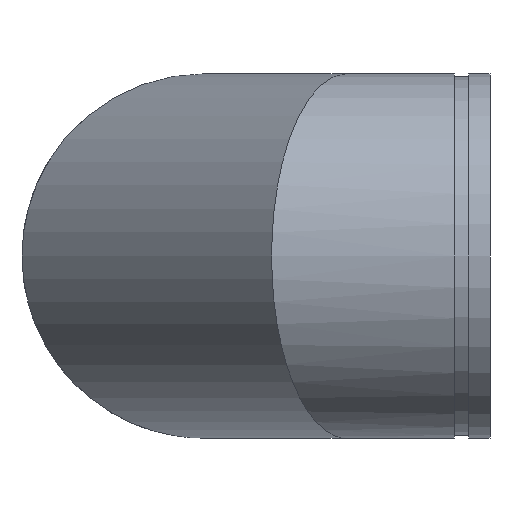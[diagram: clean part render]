
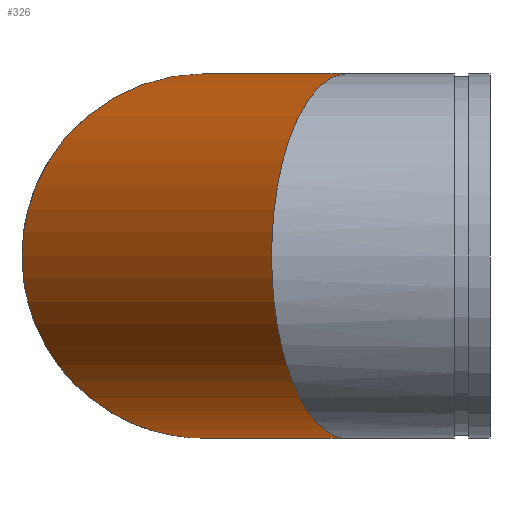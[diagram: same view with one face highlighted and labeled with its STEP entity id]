
A CAD part, left-side view. The second image highlights one B-rep face of the part: STEP entity #326.
In plain terms, the highlighted cylindrical face has radius 161.925 mm (diameter 323.85 mm), a full revolution.
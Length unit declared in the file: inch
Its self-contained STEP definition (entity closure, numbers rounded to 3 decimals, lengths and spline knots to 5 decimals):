
#51=ELLIPSE('',#383,6.90025,6.375);
#52=ELLIPSE('',#384,6.90025,6.375);
#53=ELLIPSE('',#385,6.90025,6.375);
#54=ELLIPSE('',#388,6.90025,6.375);
#55=ELLIPSE('',#389,6.90025,6.375);
#56=ELLIPSE('',#390,6.90025,6.375);
#82=FACE_OUTER_BOUND('',#103,.T.);
#103=EDGE_LOOP('',(#269,#270,#271,#272,#273,#274,#275,#276));
#115=LINE('',#606,#125);
#125=VECTOR('',#494,6.375);
#165=VERTEX_POINT('',#596);
#166=VERTEX_POINT('',#598);
#167=VERTEX_POINT('',#600);
#168=VERTEX_POINT('',#605);
#169=VERTEX_POINT('',#607);
#170=VERTEX_POINT('',#609);
#201=EDGE_CURVE('',#165,#166,#51,.T.);
#202=EDGE_CURVE('',#167,#166,#52,.T.);
#203=EDGE_CURVE('',#167,#165,#53,.T.);
#204=EDGE_CURVE('',#165,#168,#115,.T.);
#205=EDGE_CURVE('',#168,#169,#54,.T.);
#206=EDGE_CURVE('',#170,#169,#55,.T.);
#207=EDGE_CURVE('',#170,#168,#56,.T.);
#269=ORIENTED_EDGE('',*,*,#203,.F.);
#270=ORIENTED_EDGE('',*,*,#202,.T.);
#271=ORIENTED_EDGE('',*,*,#201,.F.);
#272=ORIENTED_EDGE('',*,*,#204,.T.);
#273=ORIENTED_EDGE('',*,*,#205,.T.);
#274=ORIENTED_EDGE('',*,*,#206,.F.);
#275=ORIENTED_EDGE('',*,*,#207,.T.);
#276=ORIENTED_EDGE('',*,*,#204,.F.);
#293=CYLINDRICAL_SURFACE('',#387,6.375);
#326=ADVANCED_FACE('',(#82),#293,.T.);
#383=AXIS2_PLACEMENT_3D('',#599,#484,#485);
#384=AXIS2_PLACEMENT_3D('',#601,#486,#487);
#385=AXIS2_PLACEMENT_3D('',#602,#488,#489);
#387=AXIS2_PLACEMENT_3D('',#604,#492,#493);
#388=AXIS2_PLACEMENT_3D('',#608,#495,#496);
#389=AXIS2_PLACEMENT_3D('',#610,#497,#498);
#390=AXIS2_PLACEMENT_3D('',#611,#499,#500);
#484=DIRECTION('center_axis',(-0.383,-0.924,0.));
#485=DIRECTION('ref_axis',(0.924,-0.383,0.));
#486=DIRECTION('center_axis',(0.383,0.924,0.));
#487=DIRECTION('ref_axis',(0.924,-0.383,0.));
#488=DIRECTION('center_axis',(-0.383,-0.924,0.));
#489=DIRECTION('ref_axis',(0.924,-0.383,0.));
#492=DIRECTION('center_axis',(-0.707,-0.707,0.));
#493=DIRECTION('ref_axis',(0.707,-0.707,0.));
#494=DIRECTION('',(0.707,0.707,0.));
#495=DIRECTION('center_axis',(-0.924,-0.383,0.));
#496=DIRECTION('ref_axis',(0.383,-0.924,0.));
#497=DIRECTION('center_axis',(0.924,0.383,0.));
#498=DIRECTION('ref_axis',(0.383,-0.924,0.));
#499=DIRECTION('center_axis',(-0.924,-0.383,0.));
#500=DIRECTION('ref_axis',(0.383,-0.924,0.));
#596=CARTESIAN_POINT('',(-6.375,-2.35939,0.));
#598=CARTESIAN_POINT('',(0.,-5.,-6.375));
#599=CARTESIAN_POINT('Origin',(0.,-5.,
0.));
#600=CARTESIAN_POINT('',(0.,-5.,6.375));
#601=CARTESIAN_POINT('Origin',(0.,-5.,0.));
#602=CARTESIAN_POINT('Origin',(0.,-5.,
0.));
#604=CARTESIAN_POINT('Origin',(5.,0.,0.));
#605=CARTESIAN_POINT('',(2.35939,6.375,0.));
#606=CARTESIAN_POINT('',(0.49219,4.50781,0.));
#607=CARTESIAN_POINT('',(5.,0.,-6.375));
#608=CARTESIAN_POINT('Origin',(5.,0.,0.));
#609=CARTESIAN_POINT('',(5.,0.,6.375));
#610=CARTESIAN_POINT('Origin',(5.,0.,0.));
#611=CARTESIAN_POINT('Origin',(5.,0.,0.));
